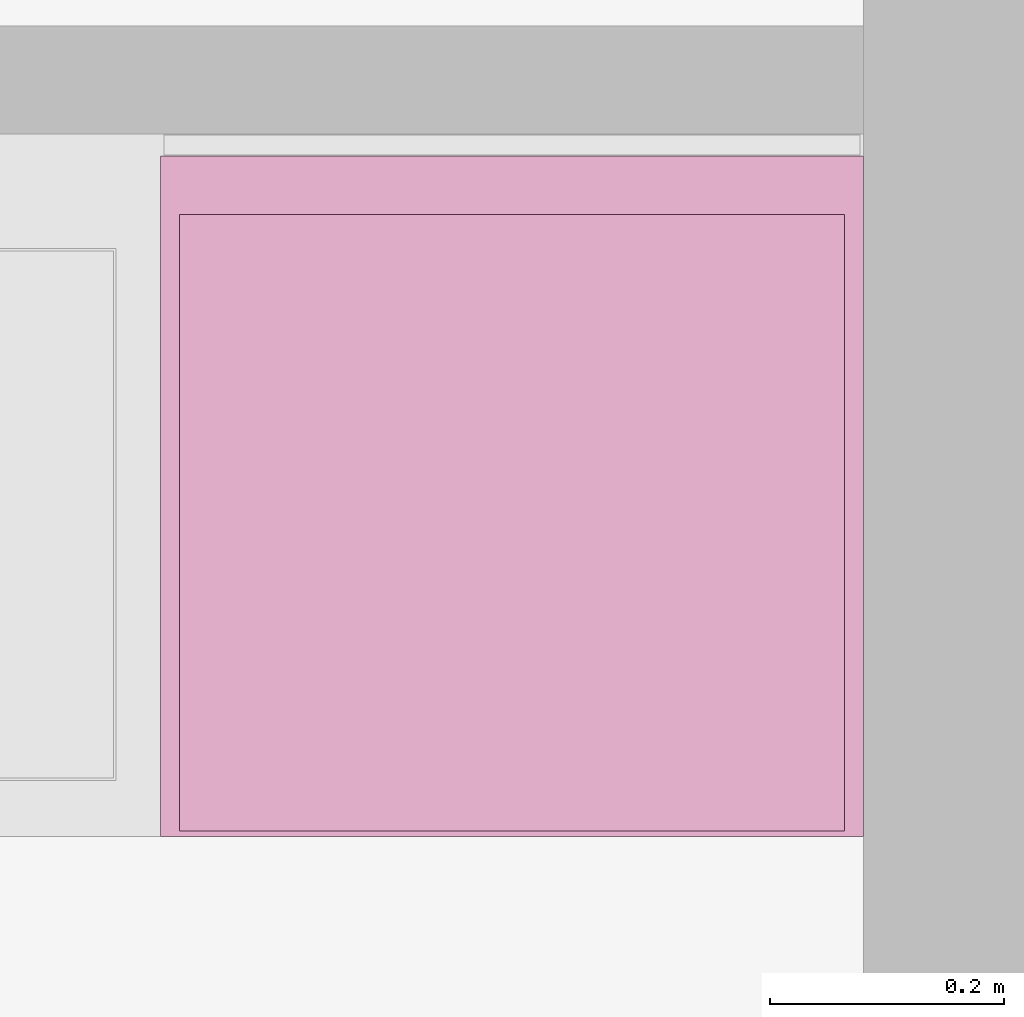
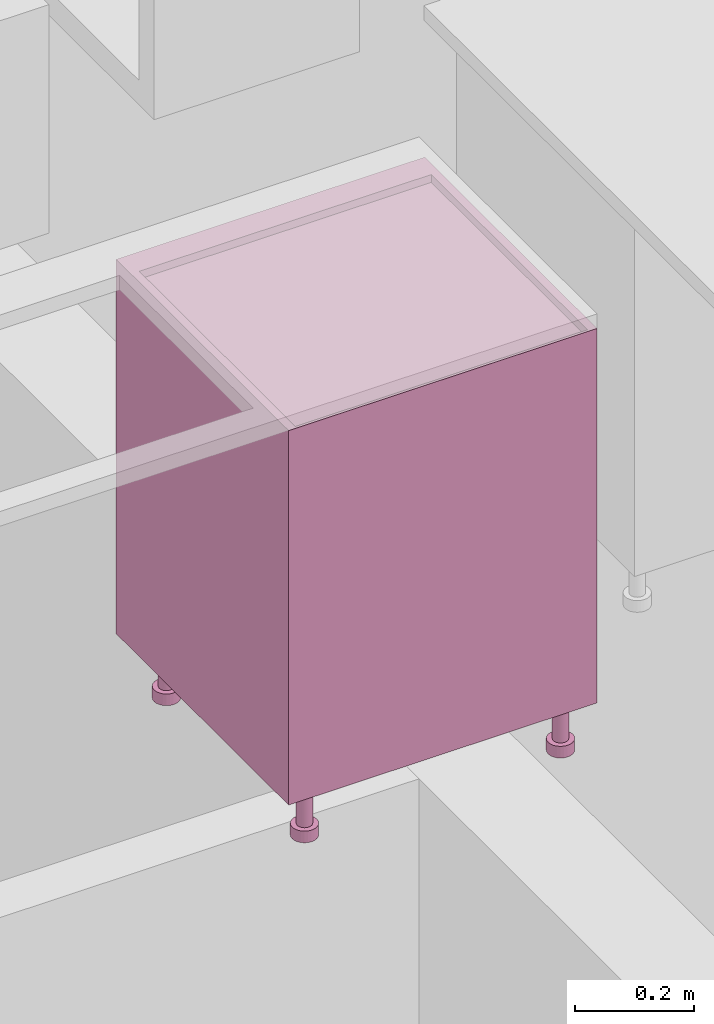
# One storey, part 71 of 125: 1 furnishing.
"""IFC2X3 building model written with IfcOpenShell, lengths in millimetres."""

from ifc_helpers import new_model, entity, si_unit, converted_unit, direction, frame, origin, place, context, subcontext, project, spatial, faceted_brep, source, transform, mapped, material, type_object, type_shapes, element, save


model = new_model("IFC2X3")

# Units and contexts
model_context = context("Model", 3, precision=0.01, world=origin(), true_north=direction((6.123233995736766e-17, 1.0)))
plan_context = context("Plan", 3, precision=0.01, world=origin(), true_north=direction((6.123233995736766e-17, 1.0)))
body_context = subcontext(model_context, "Body", "Model", "MODEL_VIEW")
ifc_project = project(units=[si_unit("LENGTHUNIT", "METRE", prefix="MILLI"), converted_unit("PLANEANGLEUNIT", "DEGREE", entity("IfcPlaneAngleMeasure", 0.017453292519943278), si_unit("PLANEANGLEUNIT", "RADIAN"), dimensions=[0, 0, 0, 0, 0, 0, 0]), si_unit("AREAUNIT", "SQUARE_METRE")], contexts=[model_context, plan_context])

# Site, building, storey, space
site_placement = place(None, origin())
site = spatial("IfcSite", under=ifc_project, at=site_placement, Name="Default", CompositionType="ELEMENT")
building_placement = place(site_placement, origin())
building = spatial("IfcBuilding", under=site, at=building_placement, CompositionType="ELEMENT")
storey_placement = place(building_placement, frame((0.0, 0.0, 3125.0)))
storey = spatial("IfcBuildingStorey", under=building, at=storey_placement, Name="2K", CompositionType="ELEMENT", Elevation=3125.0)
space_placement = place(storey_placement, origin())
space = spatial("IfcSpace", under=storey, at=space_placement, Name="2-1.2", CompositionType="ELEMENT", InteriorOrExteriorSpace="INTERNAL")

# Furnishing
ifc_material = material(Name="<Unnamed>")
furniture_type = type_object("IfcFurnitureType", Name="HR_Casework_Kitchen_Generic_Appliance_v1:Fridge", AssemblyPlace="NOTDEFINED", material=ifc_material)
shared_shape = source(origin(), body_context, "Body", "Brep", [
    faceted_brep([(305.7003264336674, -585.7846096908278, -3101.0), (310.6708891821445, -581.9705627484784, -3101.0), (300.70032643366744, -577.1243556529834, -3101.0), (297.32379306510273, -578.5229615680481, -3101.0), (299.91198351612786, -588.1822198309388, -3101.0), (303.59982137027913, -574.8994949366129, -3101.0), (314.4849361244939, -577.0, -3101.0), (305.82468208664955, -572.0, -3101.0), (307.2232880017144, -568.6234666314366, -3101.0), (316.8825462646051, -571.2116570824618, -3101.0), (307.70032643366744, -565.0, -3101.0), (317.7003264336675, -565.0, -3101.0), (307.2232880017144, -561.3765333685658, -3101.0), (316.88254626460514, -558.7883429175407, -3101.0), (305.82468208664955, -558.0, -3101.0), (314.484936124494, -553.0, -3101.0), (303.59982137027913, -555.1005050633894, -3101.0), (310.67088918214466, -548.0294372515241, -3101.0), (300.70032643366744, -552.875644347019, -3101.0), (305.7003264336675, -544.2153903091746, -3101.0), (297.32379306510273, -551.4770384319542, -3101.0), (299.91198351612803, -541.8177801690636, -3101.0), (293.7003264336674, -551.0, -3101.0), (293.70032643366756, -541.0, -3101.0), (290.07685980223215, -551.4770384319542, -3101.0), (287.488669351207, -541.8177801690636, -3101.0), (286.70032643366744, -552.875644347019, -3101.0), (281.7003264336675, -544.2153903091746, -3101.0), (283.80083149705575, -555.1005050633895, -3101.0), (276.7297636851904, -548.029437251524, -3101.0), (281.5759707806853, -558.0, -3101.0), (272.91571674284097, -553.0, -3101.0), (270.51810660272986, -558.7883429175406, -3101.0), (280.1773648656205, -561.3765333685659, -3101.0), (269.7003264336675, -565.0, -3101.0), (279.7003264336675, -565.0, -3101.0), (270.51810660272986, -571.2116570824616, -3101.0), (280.1773648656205, -568.6234666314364, -3101.0), (272.9157167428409, -577.0, -3101.0), (281.57597078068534, -572.0, -3101.0), (276.7297636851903, -581.9705627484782, -3101.0), (283.80083149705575, -574.8994949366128, -3101.0), (281.70032643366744, -585.7846096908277, -3101.0), (286.70032643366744, -577.1243556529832, -3101.0), (287.4886693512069, -588.1822198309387, -3101.0), (290.07685980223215, -578.5229615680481, -3101.0), (293.7003264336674, -589.0, -3101.0), (293.70032643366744, -579.0, -3101.0), (299.91198351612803, -541.8177801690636, -3125.0), (305.7003264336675, -544.2153903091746, -3125.0), (310.67088918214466, -548.0294372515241, -3125.0), (314.484936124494, -553.0, -3125.0), (316.88254626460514, -558.7883429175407, -3125.0), (317.7003264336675, -565.0, -3125.0), (316.8825462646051, -571.2116570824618, -3125.0), (314.4849361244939, -577.0, -3125.0), (310.6708891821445, -581.9705627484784, -3125.0), (305.7003264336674, -585.7846096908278, -3125.0), (299.91198351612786, -588.1822198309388, -3125.0), (293.7003264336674, -589.0, -3125.0), (287.4886693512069, -588.1822198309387, -3125.0), (281.70032643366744, -585.7846096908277, -3125.0), (276.7297636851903, -581.9705627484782, -3125.0), (272.9157167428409, -577.0, -3125.0), (270.51810660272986, -571.2116570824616, -3125.0), (269.7003264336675, -565.0, -3125.0), (270.51810660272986, -558.7883429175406, -3125.0), (272.91571674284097, -553.0, -3125.0), (276.7297636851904, -548.029437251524, -3125.0), (281.7003264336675, -544.2153903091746, -3125.0), (287.488669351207, -541.8177801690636, -3125.0), (293.70032643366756, -541.0, -3125.0), (297.32379306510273, -578.5229615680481, -3025.0), (300.70032643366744, -577.1243556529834, -3025.0), (303.59982137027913, -574.8994949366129, -3025.0), (305.8246820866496, -572.0, -3025.0), (307.2232880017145, -568.6234666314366, -3025.0), (307.70032643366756, -565.0, -3025.0), (307.2232880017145, -561.3765333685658, -3025.0), (305.8246820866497, -558.0, -3025.0), (303.5998213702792, -555.1005050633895, -3025.0), (300.70032643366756, -552.875644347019, -3025.0), (297.32379306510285, -551.4770384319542, -3025.0), (293.70032643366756, -551.0, -3025.0), (290.07685980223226, -551.4770384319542, -3025.0), (286.70032643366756, -552.875644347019, -3025.0), (283.80083149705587, -555.1005050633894, -3025.0), (281.5759707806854, -558.0, -3025.0), (280.1773648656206, -561.3765333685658, -3025.0), (279.70032643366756, -565.0, -3025.0), (280.1773648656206, -568.6234666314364, -3025.0), (281.5759707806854, -572.0, -3025.0), (283.8008314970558, -574.8994949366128, -3025.0), (286.7003264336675, -577.1243556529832, -3025.0), (290.07685980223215, -578.5229615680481, -3025.0), (293.70032643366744, -579.0, -3025.0)], [[[0, 1, 2]], [[0, 2, 3]], [[3, 4, 0]], [[2, 1, 5]], [[6, 5, 1]], [[7, 5, 6]], [[8, 7, 6]], [[8, 6, 9]], [[8, 9, 10]], [[10, 9, 11]], [[12, 10, 11]], [[12, 11, 13]], [[14, 12, 13]], [[14, 13, 15]], [[16, 14, 15]], [[15, 17, 16]], [[17, 18, 16]], [[18, 17, 19]], [[18, 19, 20]], [[21, 20, 19]], [[20, 21, 22]], [[22, 21, 23]], [[23, 24, 22]], [[24, 23, 25]], [[24, 25, 26]], [[27, 26, 25]], [[27, 28, 26]], [[27, 29, 28]], [[30, 28, 29]], [[31, 30, 29]], [[32, 30, 31]], [[33, 30, 32]], [[33, 32, 34]], [[34, 35, 33]], [[36, 35, 34]], [[36, 37, 35]], [[37, 36, 38]], [[39, 37, 38]], [[39, 38, 40]], [[39, 40, 41]], [[40, 42, 41]], [[41, 42, 43]], [[43, 42, 44]], [[44, 45, 43]], [[46, 45, 44]], [[4, 47, 46]], [[45, 46, 47]], [[4, 3, 47]], [[48, 49, 50, 51, 52, 53, 54, 55, 56, 57, 58, 59, 60, 61, 62, 63, 64, 65, 66, 67, 68, 69, 70, 71]], [[64, 36, 34, 65]], [[63, 38, 36, 64]], [[42, 40, 62, 61]], [[63, 62, 40, 38]], [[44, 42, 61, 60]], [[46, 44, 60, 59]], [[58, 4, 46, 59]], [[57, 0, 4, 58]], [[54, 53, 11, 9]], [[1, 0, 57, 56]], [[6, 55, 54, 9]], [[6, 1, 56, 55]], [[52, 13, 11, 53]], [[51, 15, 13, 52]], [[19, 17, 50, 49]], [[51, 50, 17, 15]], [[21, 19, 49, 48]], [[23, 21, 48, 71]], [[27, 69, 68, 29]], [[31, 67, 66, 32]], [[68, 67, 31, 29]], [[32, 66, 65, 34]], [[25, 70, 69, 27]], [[70, 25, 23, 71]], [[72, 73, 74, 75, 76, 77, 78, 79, 80, 81, 82, 83, 84, 85, 86, 87, 88, 89, 90, 91, 92, 93, 94, 95]], [[37, 39, 91, 90]], [[35, 37, 90, 89]], [[43, 45, 94, 93]], [[41, 43, 93, 92]], [[39, 41, 92, 91]], [[47, 95, 94, 45]], [[2, 5, 74, 73]], [[3, 2, 73, 72]], [[8, 10, 77, 76]], [[7, 8, 76, 75]], [[5, 7, 75, 74]], [[3, 72, 95, 47]], [[79, 78, 12, 14]], [[78, 77, 10, 12]], [[80, 16, 18, 81]], [[16, 80, 79, 14]], [[81, 18, 20, 82]], [[22, 83, 82, 20]], [[26, 28, 86, 85]], [[24, 26, 85, 84]], [[33, 35, 89, 88]], [[30, 33, 88, 87]], [[28, 30, 87, 86]], [[24, 84, 83, 22]]]),
    faceted_brep([(-192.29967356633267, -585.7846096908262, -3101.0), (-187.3291108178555, -581.9705627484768, -3101.0), (-197.29967356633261, -577.1243556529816, -3101.0), (-200.67620693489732, -578.5229615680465, -3101.0), (-198.08801648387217, -588.1822198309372, -3101.0), (-194.40017862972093, -574.8994949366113, -3101.0), (-183.51506387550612, -577.0, -3101.0), (-192.17531791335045, -572.0, -3101.0), (-190.77671199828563, -568.6234666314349, -3101.0), (-181.11745373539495, -571.2116570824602, -3101.0), (-190.29967356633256, -565.0, -3101.0), (-180.29967356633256, -565.0, -3101.0), (-190.77671199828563, -561.3765333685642, -3101.0), (-181.11745373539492, -558.788342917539, -3101.0), (-192.17531791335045, -558.0, -3101.0), (-183.515063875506, -553.0, -3101.0), (-194.40017862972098, -555.1005050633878, -3101.0), (-187.3291108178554, -548.0294372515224, -3101.0), (-197.29967356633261, -552.8756443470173, -3101.0), (-192.29967356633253, -544.215390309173, -3101.0), (-200.67620693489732, -551.4770384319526, -3101.0), (-198.08801648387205, -541.8177801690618, -3101.0), (-204.29967356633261, -551.0, -3101.0), (-204.29967356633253, -541.0, -3101.0), (-207.92314019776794, -551.4770384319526, -3101.0), (-210.51133064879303, -541.8177801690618, -3101.0), (-211.29967356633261, -552.8756443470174, -3101.0), (-216.29967356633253, -544.215390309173, -3101.0), (-214.19916850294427, -555.1005050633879, -3101.0), (-221.27023631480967, -548.0294372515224, -3101.0), (-216.42402921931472, -558.0, -3101.0), (-225.08428325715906, -553.0, -3101.0), (-227.48189339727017, -558.788342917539, -3101.0), (-217.8226351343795, -561.3765333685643, -3101.0), (-228.2996735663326, -565.0, -3101.0), (-218.29967356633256, -565.0, -3101.0), (-227.48189339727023, -571.21165708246, -3101.0), (-217.8226351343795, -568.6234666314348, -3101.0), (-225.08428325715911, -577.0, -3101.0), (-216.42402921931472, -572.0, -3101.0), (-221.27023631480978, -581.9705627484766, -3101.0), (-214.19916850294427, -574.8994949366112, -3101.0), (-216.29967356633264, -585.784609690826, -3101.0), (-211.29967356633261, -577.1243556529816, -3101.0), (-210.51133064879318, -588.1822198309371, -3101.0), (-207.9231401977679, -578.5229615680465, -3101.0), (-204.2996735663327, -589.0, -3101.0), (-204.29967356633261, -579.0, -3101.0), (-198.08801648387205, -541.8177801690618, -3125.0), (-192.29967356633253, -544.215390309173, -3125.0), (-187.3291108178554, -548.0294372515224, -3125.0), (-183.515063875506, -553.0, -3125.0), (-181.11745373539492, -558.788342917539, -3125.0), (-180.29967356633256, -565.0, -3125.0), (-181.11745373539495, -571.2116570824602, -3125.0), (-183.51506387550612, -577.0, -3125.0), (-187.3291108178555, -581.9705627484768, -3125.0), (-192.29967356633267, -585.7846096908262, -3125.0), (-198.08801648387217, -588.1822198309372, -3125.0), (-204.2996735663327, -589.0, -3125.0), (-210.51133064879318, -588.1822198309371, -3125.0), (-216.29967356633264, -585.784609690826, -3125.0), (-221.27023631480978, -581.9705627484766, -3125.0), (-225.08428325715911, -577.0, -3125.0), (-227.48189339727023, -571.21165708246, -3125.0), (-228.2996735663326, -565.0, -3125.0), (-227.48189339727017, -558.788342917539, -3125.0), (-225.08428325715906, -553.0, -3125.0), (-221.27023631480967, -548.0294372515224, -3125.0), (-216.29967356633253, -544.215390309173, -3125.0), (-210.51133064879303, -541.8177801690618, -3125.0), (-204.29967356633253, -541.0, -3125.0), (-200.67620693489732, -578.5229615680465, -3025.0), (-197.29967356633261, -577.1243556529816, -3025.0), (-194.40017862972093, -574.8994949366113, -3025.0), (-192.17531791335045, -572.0, -3025.0), (-190.77671199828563, -568.6234666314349, -3025.0), (-190.29967356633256, -565.0, -3025.0), (-190.77671199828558, -561.3765333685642, -3025.0), (-192.1753179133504, -558.0, -3025.0), (-194.40017862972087, -555.1005050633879, -3025.0), (-197.29967356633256, -552.8756443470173, -3025.0), (-200.67620693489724, -551.4770384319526, -3025.0), (-204.29967356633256, -551.0, -3025.0), (-207.92314019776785, -551.4770384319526, -3025.0), (-211.29967356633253, -552.8756443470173, -3025.0), (-214.1991685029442, -555.1005050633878, -3025.0), (-216.4240292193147, -558.0, -3025.0), (-217.8226351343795, -561.3765333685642, -3025.0), (-218.29967356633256, -565.0, -3025.0), (-217.8226351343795, -568.6234666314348, -3025.0), (-216.42402921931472, -572.0, -3025.0), (-214.19916850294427, -574.8994949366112, -3025.0), (-211.2996735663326, -577.1243556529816, -3025.0), (-207.9231401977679, -578.5229615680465, -3025.0), (-204.29967356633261, -579.0, -3025.0)], [[[0, 1, 2]], [[0, 2, 3]], [[3, 4, 0]], [[2, 1, 5]], [[6, 5, 1]], [[7, 5, 6]], [[8, 7, 6]], [[8, 6, 9]], [[8, 9, 10]], [[10, 9, 11]], [[12, 10, 11]], [[12, 11, 13]], [[14, 12, 13]], [[14, 13, 15]], [[16, 14, 15]], [[15, 17, 16]], [[17, 18, 16]], [[18, 17, 19]], [[18, 19, 20]], [[21, 20, 19]], [[20, 21, 22]], [[22, 21, 23]], [[23, 24, 22]], [[24, 23, 25]], [[24, 25, 26]], [[27, 26, 25]], [[27, 28, 26]], [[27, 29, 28]], [[30, 28, 29]], [[31, 30, 29]], [[32, 30, 31]], [[33, 30, 32]], [[33, 32, 34]], [[34, 35, 33]], [[36, 35, 34]], [[36, 37, 35]], [[37, 36, 38]], [[39, 37, 38]], [[39, 38, 40]], [[39, 40, 41]], [[40, 42, 41]], [[41, 42, 43]], [[43, 42, 44]], [[44, 45, 43]], [[46, 45, 44]], [[4, 47, 46]], [[45, 46, 47]], [[4, 3, 47]], [[48, 49, 50, 51, 52, 53, 54, 55, 56, 57, 58, 59, 60, 61, 62, 63, 64, 65, 66, 67, 68, 69, 70, 71]], [[64, 36, 34, 65]], [[63, 38, 36, 64]], [[42, 40, 62, 61]], [[63, 62, 40, 38]], [[44, 42, 61, 60]], [[46, 44, 60, 59]], [[58, 4, 46, 59]], [[57, 0, 4, 58]], [[54, 53, 11, 9]], [[1, 0, 57, 56]], [[6, 55, 54, 9]], [[6, 1, 56, 55]], [[52, 13, 11, 53]], [[51, 15, 13, 52]], [[19, 17, 50, 49]], [[51, 50, 17, 15]], [[21, 19, 49, 48]], [[23, 21, 48, 71]], [[27, 69, 68, 29]], [[31, 67, 66, 32]], [[68, 67, 31, 29]], [[32, 66, 65, 34]], [[25, 70, 69, 27]], [[70, 25, 23, 71]], [[72, 73, 74, 75, 76, 77, 78, 79, 80, 81, 82, 83, 84, 85, 86, 87, 88, 89, 90, 91, 92, 93, 94, 95]], [[37, 39, 91, 90]], [[35, 37, 90, 89]], [[43, 45, 94, 93]], [[41, 43, 93, 92]], [[39, 41, 92, 91]], [[47, 95, 94, 45]], [[2, 5, 74, 73]], [[3, 2, 73, 72]], [[8, 10, 77, 76]], [[7, 8, 76, 75]], [[5, 7, 75, 74]], [[3, 72, 95, 47]], [[79, 78, 12, 14]], [[78, 77, 10, 12]], [[80, 16, 18, 81]], [[16, 80, 79, 14]], [[81, 18, 20, 82]], [[22, 83, 82, 20]], [[26, 28, 86, 85]], [[24, 26, 85, 84]], [[33, 35, 89, 88]], [[30, 33, 88, 87]], [[28, 30, 87, 86]], [[24, 84, 83, 22]]]),
    faceted_brep([(305.70032643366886, -120.78460969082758, -3101.0), (310.670889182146, -116.97056274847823, -3101.0), (300.7003264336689, -112.12435565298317, -3101.0), (297.3237930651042, -113.52296156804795, -3101.0), (299.91198351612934, -123.18221983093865, -3101.0), (303.5998213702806, -109.8994949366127, -3101.0), (314.48493612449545, -112.0, -3101.0), (305.824682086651, -107.0, -3101.0), (307.2232880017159, -103.62346663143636, -3101.0), (316.88254626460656, -106.21165708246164, -3101.0), (307.700326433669, -100.0, -3101.0), (317.700326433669, -100.0, -3101.0), (307.2232880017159, -96.3765333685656, -3101.0), (316.8825462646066, -93.78834291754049, -3101.0), (305.824682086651, -93.0, -3101.0), (314.4849361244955, -88.0, -3101.0), (303.5998213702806, -90.10050506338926, -3101.0), (310.67088918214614, -83.02943725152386, -3101.0), (300.7003264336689, -87.8756443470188, -3101.0), (305.700326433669, -79.21539030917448, -3101.0), (297.3237930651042, -86.477038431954, -3101.0), (299.9119835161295, -76.81778016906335, -3101.0), (293.70032643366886, -86.0, -3101.0), (293.70032643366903, -76.0, -3101.0), (290.0768598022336, -86.47703843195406, -3101.0), (287.4886693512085, -76.81778016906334, -3101.0), (286.7003264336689, -87.87564434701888, -3101.0), (281.700326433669, -79.21539030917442, -3101.0), (283.8008314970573, -90.10050506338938, -3101.0), (276.72976368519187, -83.0294372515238, -3101.0), (281.5759707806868, -93.0, -3101.0), (272.91571674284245, -88.0, -3101.0), (270.51810660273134, -93.78834291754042, -3101.0), (280.177364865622, -96.37653336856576, -3101.0), (269.700326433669, -100.0, -3101.0), (279.700326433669, -100.0, -3101.0), (270.51810660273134, -106.2116570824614, -3101.0), (280.177364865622, -103.62346663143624, -3101.0), (272.9157167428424, -112.0, -3101.0), (281.5759707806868, -107.0, -3101.0), (276.72976368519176, -116.97056274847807, -3101.0), (283.8008314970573, -109.89949493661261, -3101.0), (281.7003264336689, -120.78460969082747, -3101.0), (286.7003264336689, -112.1243556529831, -3101.0), (287.4886693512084, -123.1822198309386, -3101.0), (290.0768598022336, -113.52296156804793, -3101.0), (293.70032643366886, -124.0, -3101.0), (293.7003264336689, -114.0, -3101.0), (299.9119835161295, -76.81778016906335, -3125.0), (305.700326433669, -79.21539030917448, -3125.0), (310.67088918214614, -83.02943725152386, -3125.0), (314.4849361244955, -88.0, -3125.0), (316.8825462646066, -93.78834291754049, -3125.0), (317.700326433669, -100.0, -3125.0), (316.88254626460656, -106.21165708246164, -3125.0), (314.48493612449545, -112.0, -3125.0), (310.670889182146, -116.97056274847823, -3125.0), (305.70032643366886, -120.78460969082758, -3125.0), (299.91198351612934, -123.18221983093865, -3125.0), (293.70032643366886, -124.0, -3125.0), (287.4886693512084, -123.1822198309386, -3125.0), (281.7003264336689, -120.78460969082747, -3125.0), (276.72976368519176, -116.97056274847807, -3125.0), (272.9157167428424, -112.0, -3125.0), (270.51810660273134, -106.2116570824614, -3125.0), (269.700326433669, -100.0, -3125.0), (270.51810660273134, -93.78834291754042, -3125.0), (272.91571674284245, -88.0, -3125.0), (276.72976368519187, -83.0294372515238, -3125.0), (281.700326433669, -79.21539030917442, -3125.0), (287.4886693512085, -76.81778016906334, -3125.0), (293.70032643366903, -76.0, -3125.0), (297.32379306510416, -113.52296156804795, -3025.0), (300.70032643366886, -112.12435565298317, -3025.0), (303.59982137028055, -109.8994949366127, -3025.0), (305.824682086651, -107.0, -3025.0), (307.22328800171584, -103.62346663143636, -3025.0), (307.700326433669, -100.0, -3025.0), (307.2232880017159, -96.3765333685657, -3025.0), (305.82468208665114, -93.0, -3025.0), (303.5998213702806, -90.10050506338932, -3025.0), (300.700326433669, -87.87564434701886, -3025.0), (297.32379306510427, -86.47703843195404, -3025.0), (293.700326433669, -86.0, -3025.0), (290.0768598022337, -86.47703843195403, -3025.0), (286.700326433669, -87.87564434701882, -3025.0), (283.8008314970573, -90.1005050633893, -3025.0), (281.5759707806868, -93.0, -3025.0), (280.177364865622, -96.37653336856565, -3025.0), (279.700326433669, -100.0, -3025.0), (280.177364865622, -103.62346663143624, -3025.0), (281.5759707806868, -107.0, -3025.0), (283.80083149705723, -109.89949493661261, -3025.0), (286.7003264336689, -112.1243556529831, -3025.0), (290.07685980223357, -113.52296156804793, -3025.0), (293.70032643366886, -114.0, -3025.0)], [[[0, 1, 2]], [[0, 2, 3]], [[3, 4, 0]], [[2, 1, 5]], [[6, 5, 1]], [[7, 5, 6]], [[8, 7, 6]], [[8, 6, 9]], [[8, 9, 10]], [[10, 9, 11]], [[12, 10, 11]], [[12, 11, 13]], [[14, 12, 13]], [[14, 13, 15]], [[16, 14, 15]], [[15, 17, 16]], [[17, 18, 16]], [[18, 17, 19]], [[18, 19, 20]], [[21, 20, 19]], [[20, 21, 22]], [[22, 21, 23]], [[23, 24, 22]], [[24, 23, 25]], [[24, 25, 26]], [[27, 26, 25]], [[27, 28, 26]], [[27, 29, 28]], [[30, 28, 29]], [[31, 30, 29]], [[32, 30, 31]], [[33, 30, 32]], [[33, 32, 34]], [[34, 35, 33]], [[36, 35, 34]], [[36, 37, 35]], [[37, 36, 38]], [[39, 37, 38]], [[39, 38, 40]], [[39, 40, 41]], [[40, 42, 41]], [[41, 42, 43]], [[43, 42, 44]], [[44, 45, 43]], [[46, 45, 44]], [[4, 47, 46]], [[45, 46, 47]], [[4, 3, 47]], [[48, 49, 50, 51, 52, 53, 54, 55, 56, 57, 58, 59, 60, 61, 62, 63, 64, 65, 66, 67, 68, 69, 70, 71]], [[64, 36, 34, 65]], [[63, 38, 36, 64]], [[42, 40, 62, 61]], [[63, 62, 40, 38]], [[44, 42, 61, 60]], [[46, 44, 60, 59]], [[58, 4, 46, 59]], [[57, 0, 4, 58]], [[54, 53, 11, 9]], [[1, 0, 57, 56]], [[6, 55, 54, 9]], [[6, 1, 56, 55]], [[52, 13, 11, 53]], [[51, 15, 13, 52]], [[19, 17, 50, 49]], [[51, 50, 17, 15]], [[21, 19, 49, 48]], [[23, 21, 48, 71]], [[27, 69, 68, 29]], [[31, 67, 66, 32]], [[68, 67, 31, 29]], [[32, 66, 65, 34]], [[25, 70, 69, 27]], [[70, 25, 23, 71]], [[72, 73, 74, 75, 76, 77, 78, 79, 80, 81, 82, 83, 84, 85, 86, 87, 88, 89, 90, 91, 92, 93, 94, 95]], [[37, 39, 91, 90]], [[35, 37, 90, 89]], [[43, 45, 94, 93]], [[41, 43, 93, 92]], [[39, 41, 92, 91]], [[47, 95, 94, 45]], [[2, 5, 74, 73]], [[3, 2, 73, 72]], [[8, 10, 77, 76]], [[7, 8, 76, 75]], [[5, 7, 75, 74]], [[3, 72, 95, 47]], [[79, 78, 12, 14]], [[78, 77, 10, 12]], [[80, 16, 18, 81]], [[16, 80, 79, 14]], [[81, 18, 20, 82]], [[22, 83, 82, 20]], [[26, 28, 86, 85]], [[24, 26, 85, 84]], [[33, 35, 89, 88]], [[30, 33, 88, 87]], [[28, 30, 87, 86]], [[24, 84, 83, 22]]]),
    faceted_brep([(-192.299673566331, -120.78460969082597, -3101.0), (-187.3291108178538, -116.97056274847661, -3101.0), (-197.29967356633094, -112.12435565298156, -3101.0), (-200.67620693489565, -113.52296156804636, -3101.0), (-198.0880164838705, -123.18221983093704, -3101.0), (-194.40017862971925, -109.89949493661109, -3101.0), (-183.5150638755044, -112.0, -3101.0), (-192.17531791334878, -107.0, -3101.0), (-190.77671199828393, -103.62346663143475, -3101.0), (-181.11745373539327, -106.21165708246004, -3101.0), (-190.29967356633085, -100.0, -3101.0), (-180.29967356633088, -100.0, -3101.0), (-190.77671199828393, -96.376533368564, -3101.0), (-181.11745373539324, -93.78834291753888, -3101.0), (-192.17531791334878, -93.0, -3101.0), (-183.51506387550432, -88.0, -3101.0), (-194.40017862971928, -90.10050506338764, -3101.0), (-187.32911081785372, -83.02943725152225, -3101.0), (-197.29967356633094, -87.8756443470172, -3101.0), (-192.29967356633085, -79.21539030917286, -3101.0), (-200.67620693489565, -86.4770384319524, -3101.0), (-198.08801648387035, -76.81778016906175, -3101.0), (-204.29967356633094, -86.0, -3101.0), (-204.29967356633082, -76.0, -3101.0), (-207.92314019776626, -86.47703843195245, -3101.0), (-210.51133064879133, -76.81778016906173, -3101.0), (-211.29967356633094, -87.87564434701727, -3101.0), (-216.29967356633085, -79.21539030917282, -3101.0), (-214.19916850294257, -90.10050506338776, -3101.0), (-221.270236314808, -83.0294372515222, -3101.0), (-216.424029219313, -93.0, -3101.0), (-225.08428325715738, -88.0, -3101.0), (-227.4818933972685, -93.78834291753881, -3101.0), (-217.82263513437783, -96.37653336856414, -3101.0), (-228.29967356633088, -100.0, -3101.0), (-218.29967356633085, -100.0, -3101.0), (-227.48189339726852, -106.2116570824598, -3101.0), (-217.82263513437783, -103.62346663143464, -3101.0), (-225.08428325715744, -112.0, -3101.0), (-216.424029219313, -107.0, -3101.0), (-221.27023631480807, -116.97056274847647, -3101.0), (-214.19916850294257, -109.899494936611, -3101.0), (-216.29967356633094, -120.78460969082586, -3101.0), (-211.29967356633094, -112.12435565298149, -3101.0), (-210.51133064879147, -123.18221983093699, -3101.0), (-207.9231401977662, -113.52296156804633, -3101.0), (-204.299673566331, -124.0, -3101.0), (-204.29967356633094, -114.0, -3101.0), (-198.08801648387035, -76.81778016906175, -3125.0), (-192.29967356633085, -79.21539030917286, -3125.0), (-187.32911081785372, -83.02943725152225, -3125.0), (-183.51506387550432, -88.0, -3125.0), (-181.11745373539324, -93.78834291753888, -3125.0), (-180.29967356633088, -100.0, -3125.0), (-181.11745373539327, -106.21165708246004, -3125.0), (-183.5150638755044, -112.0, -3125.0), (-187.3291108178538, -116.97056274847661, -3125.0), (-192.299673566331, -120.78460969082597, -3125.0), (-198.0880164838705, -123.18221983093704, -3125.0), (-204.299673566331, -124.0, -3125.0), (-210.51133064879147, -123.18221983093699, -3125.0), (-216.29967356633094, -120.78460969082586, -3125.0), (-221.27023631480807, -116.97056274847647, -3125.0), (-225.08428325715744, -112.0, -3125.0), (-227.48189339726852, -106.2116570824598, -3125.0), (-228.29967356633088, -100.0, -3125.0), (-227.4818933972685, -93.78834291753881, -3125.0), (-225.08428325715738, -88.0, -3125.0), (-221.270236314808, -83.0294372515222, -3125.0), (-216.29967356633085, -79.21539030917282, -3125.0), (-210.51133064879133, -76.81778016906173, -3125.0), (-204.29967356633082, -76.0, -3125.0), (-200.67620693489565, -113.52296156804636, -3025.0), (-197.29967356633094, -112.12435565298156, -3025.0), (-194.40017862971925, -109.89949493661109, -3025.0), (-192.17531791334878, -107.0, -3025.0), (-190.77671199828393, -103.62346663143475, -3025.0), (-190.29967356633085, -100.0, -3025.0), (-190.7767119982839, -96.3765333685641, -3025.0), (-192.1753179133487, -93.0, -3025.0), (-194.4001786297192, -90.10050506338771, -3025.0), (-197.29967356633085, -87.87564434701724, -3025.0), (-200.67620693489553, -86.47703843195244, -3025.0), (-204.29967356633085, -86.0, -3025.0), (-207.92314019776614, -86.47703843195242, -3025.0), (-211.29967356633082, -87.87564434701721, -3025.0), (-214.1991685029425, -90.10050506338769, -3025.0), (-216.42402921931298, -93.0, -3025.0), (-217.82263513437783, -96.37653336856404, -3025.0), (-218.29967356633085, -100.0, -3025.0), (-217.82263513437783, -103.62346663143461, -3025.0), (-216.424029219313, -107.0, -3025.0), (-214.19916850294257, -109.899494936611, -3025.0), (-211.29967356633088, -112.12435565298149, -3025.0), (-207.9231401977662, -113.52296156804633, -3025.0), (-204.29967356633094, -114.0, -3025.0)], [[[0, 1, 2]], [[0, 2, 3]], [[3, 4, 0]], [[2, 1, 5]], [[6, 5, 1]], [[7, 5, 6]], [[8, 7, 6]], [[8, 6, 9]], [[8, 9, 10]], [[10, 9, 11]], [[12, 10, 11]], [[12, 11, 13]], [[14, 12, 13]], [[14, 13, 15]], [[16, 14, 15]], [[15, 17, 16]], [[17, 18, 16]], [[18, 17, 19]], [[18, 19, 20]], [[21, 20, 19]], [[20, 21, 22]], [[22, 21, 23]], [[23, 24, 22]], [[24, 23, 25]], [[24, 25, 26]], [[27, 26, 25]], [[27, 28, 26]], [[27, 29, 28]], [[30, 28, 29]], [[31, 30, 29]], [[32, 30, 31]], [[33, 30, 32]], [[33, 32, 34]], [[34, 35, 33]], [[36, 35, 34]], [[36, 37, 35]], [[37, 36, 38]], [[39, 37, 38]], [[39, 38, 40]], [[39, 40, 41]], [[40, 42, 41]], [[41, 42, 43]], [[43, 42, 44]], [[44, 45, 43]], [[46, 45, 44]], [[4, 47, 46]], [[45, 46, 47]], [[4, 3, 47]], [[48, 49, 50, 51, 52, 53, 54, 55, 56, 57, 58, 59, 60, 61, 62, 63, 64, 65, 66, 67, 68, 69, 70, 71]], [[64, 36, 34, 65]], [[63, 38, 36, 64]], [[42, 40, 62, 61]], [[63, 62, 40, 38]], [[44, 42, 61, 60]], [[46, 44, 60, 59]], [[58, 4, 46, 59]], [[57, 0, 4, 58]], [[54, 53, 11, 9]], [[1, 0, 57, 56]], [[6, 55, 54, 9]], [[6, 1, 56, 55]], [[52, 13, 11, 53]], [[51, 15, 13, 52]], [[19, 17, 50, 49]], [[51, 50, 17, 15]], [[21, 19, 49, 48]], [[23, 21, 48, 71]], [[27, 69, 68, 29]], [[31, 67, 66, 32]], [[68, 67, 31, 29]], [[32, 66, 65, 34]], [[25, 70, 69, 27]], [[70, 25, 23, 71]], [[72, 73, 74, 75, 76, 77, 78, 79, 80, 81, 82, 83, 84, 85, 86, 87, 88, 89, 90, 91, 92, 93, 94, 95]], [[37, 39, 91, 90]], [[35, 37, 90, 89]], [[43, 45, 94, 93]], [[41, 43, 93, 92]], [[39, 41, 92, 91]], [[47, 95, 94, 45]], [[2, 5, 74, 73]], [[3, 2, 73, 72]], [[8, 10, 77, 76]], [[7, 8, 76, 75]], [[5, 7, 75, 74]], [[3, 72, 95, 47]], [[79, 78, 12, 14]], [[78, 77, 10, 12]], [[80, 16, 18, 81]], [[16, 80, 79, 14]], [[81, 18, 20, 82]], [[22, 83, 82, 20]], [[26, 28, 86, 85]], [[24, 26, 85, 84]], [[33, 35, 89, 88]], [[30, 33, 88, 87]], [[28, 30, 87, 86]], [[24, 84, 83, 22]]]),
    faceted_brep([(328.70032643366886, -19.0, -3009.0), (-239.2996735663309, -19.0, -3009.0), (-239.29967356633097, -595.0, -3009.0), (328.70032643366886, -595.0, -3009.0), (328.70032643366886, -19.0, -3025.0), (328.70032643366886, -595.0, -3025.0), (-239.29967356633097, -595.0, -3025.0), (-239.29967356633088, -19.0, -3025.0)], [[[0, 1, 2, 3]], [[4, 5, 6, 7]], [[1, 0, 4, 7]], [[2, 1, 7, 6]], [[3, 2, 6, 5]], [[0, 3, 5, 4]]]),
    faceted_brep([(-255.29967356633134, -19.0, -2255.0), (-255.2996735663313, -600.0, -2255.0), (344.7003264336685, -600.0, -2255.0), (344.7003264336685, -19.0, -2255.0), (328.70032643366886, -19.0, -2255.0), (328.70032643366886, -595.0, -2255.0), (-239.2996735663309, -595.0, -2255.0), (-239.2996735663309, -19.0, -2255.0), (-255.29967356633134, -19.0, -3025.0), (-239.2996735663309, -19.0, -3025.0), (-239.29967356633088, -595.0, -3025.0), (328.70032643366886, -595.0, -3025.0), (328.70032643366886, -19.0, -3025.0), (344.7003264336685, -19.0, -3025.0), (344.7003264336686, -600.0, -3025.0), (-255.2996735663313, -600.0, -3025.0)], [[[0, 1, 2, 3, 4, 5, 6, 7]], [[8, 9, 10, 11, 12, 13, 14, 15]], [[1, 0, 8, 15]], [[0, 7, 9, 8]], [[7, 6, 10, 9]], [[5, 4, 12, 11]], [[4, 3, 13, 12]], [[3, 2, 14, 13]], [[2, 1, 15, 14]], [[6, 5, 11, 10]]]),
    faceted_brep([(328.70032643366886, -69.0, -2255.0), (328.70032643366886, -19.0, -2255.0), (-239.29967356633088, -19.0, -2255.0), (-239.29967356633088, -69.0, -2255.0), (328.70032643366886, -69.0, -2271.0), (-239.29967356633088, -69.0, -2271.0), (-239.29967356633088, -19.0, -2271.0), (328.70032643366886, -19.0, -2271.0)], [[[0, 1, 2, 3]], [[4, 5, 6, 7]], [[0, 3, 5, 4]], [[3, 2, 6, 5]], [[2, 1, 7, 6]], [[1, 0, 4, 7]]]),
    faceted_brep([(328.7003264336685, -19.0, -2271.0), (-239.29967356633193, -19.0, -2271.0), (-239.2996735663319, -595.0, -2271.0), (328.7003264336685, -595.0, -2271.0), (328.7003264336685, -19.0, -3009.0), (328.7003264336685, -595.0, -3009.0), (-239.2996735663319, -595.0, -3009.0), (-239.2996735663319, -19.0, -3009.0)], [[[0, 1, 2, 3]], [[4, 5, 6, 7]], [[1, 0, 4, 7]], [[2, 1, 7, 6]], [[3, 2, 6, 5]], [[0, 3, 5, 4]]]),
])
type_shapes(furniture_type, [shared_shape])
furnishing_placement = place(space_placement, frame((2800.293208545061, 11187.0, 6295.0)))
element("IfcFurnishingElement", 1, at=furnishing_placement, inside=space, type_object=furniture_type, material=ifc_material, Name="HR_Casework_Kitchen_Generic_Appliance_v1:Fridge", ObjectType="HR_Casework_Kitchen_Generic_Appliance_v1:Fridge", context=body_context, shape_type="MappedRepresentation", body=[
    mapped(shared_shape, transform((0.0, 0.0, 0.0), scale=1.0)),
])

save(model, "model.ifc")
